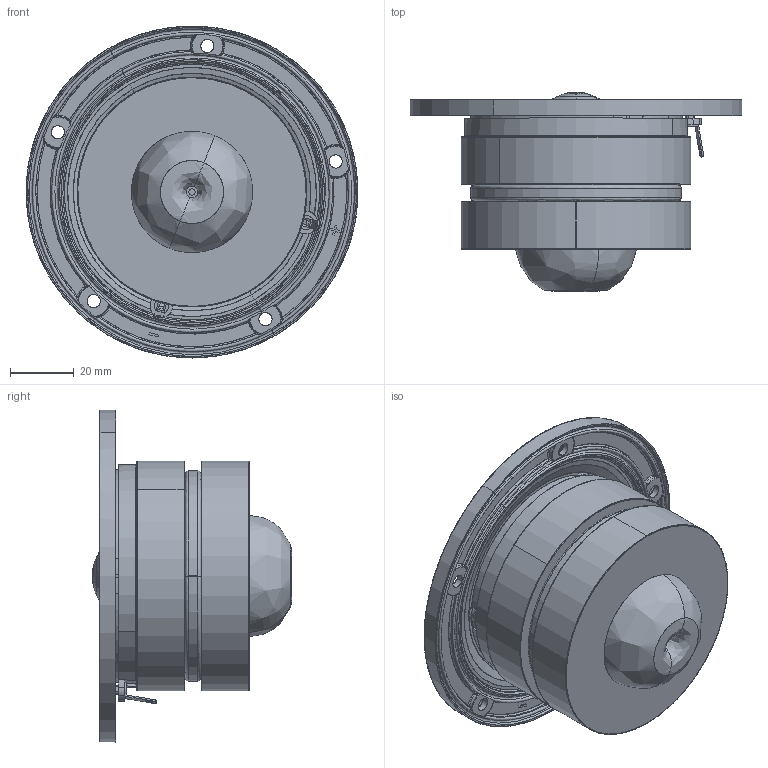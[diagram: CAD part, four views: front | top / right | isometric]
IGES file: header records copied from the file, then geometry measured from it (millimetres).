
Start section: SolidWorks IGES file using analytic representation for surfaces
Global section: file name: W:\TT\WEB 3D enheder\WEB D2604_833000\D2604-833000.IGS; native system: SolidWorks 2019; preprocessor: SolidWorks 2019; author: mhn; date: 201022.081019; units: millimetre
Bounding box: 104 x 62.51 x 104 mm (x, y, z)
Surface area: 37546 mm2 (no closed solid volume)
Topology: 0 solids, 0 shells, 642 faces, 7851 edges, 7838 vertices
Faces by surface type: bspline 407, revolution 235
